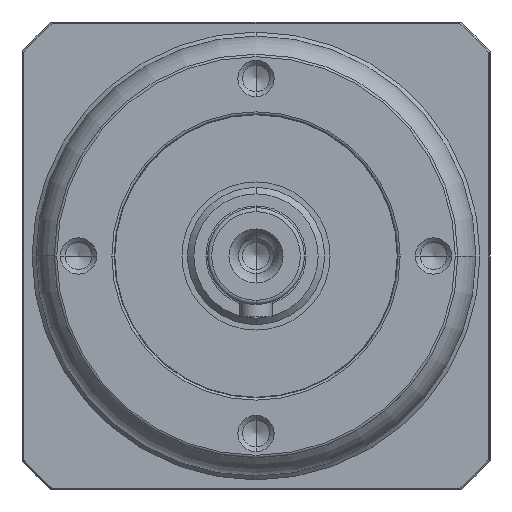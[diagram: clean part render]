
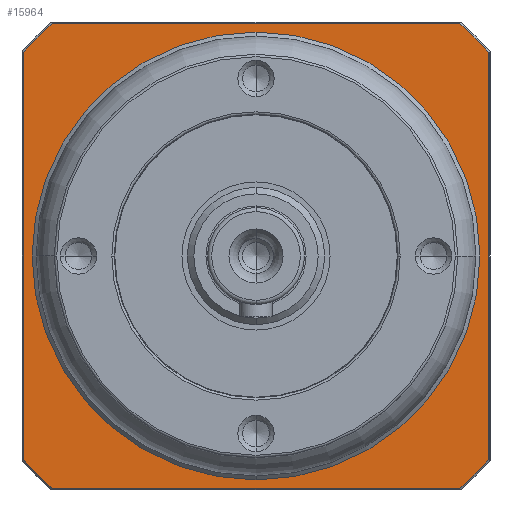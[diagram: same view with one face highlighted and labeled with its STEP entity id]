
A CAD part, left-side view. The second image highlights one B-rep face of the part: STEP entity #15964.
In plain terms, the highlighted planar face has unit normal (-1, 0, 0) as drawn and (0, 0, -1) by its records, which use the part's own axes.
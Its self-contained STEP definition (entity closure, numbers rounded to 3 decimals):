
#14729=CARTESIAN_POINT('',(0.,0.,
2.));
#14730=DIRECTION('',(0.,0.,-1.));
#14731=DIRECTION('',(0.,-1.,0.));
#14732=AXIS2_PLACEMENT_3D('',#14729,#14730,#14731);
#14734=CARTESIAN_POINT('',(0.,0.,
2.));
#14735=DIRECTION('',(0.,0.,-1.));
#14736=DIRECTION('',(0.,1.,0.));
#14737=AXIS2_PLACEMENT_3D('',#14734,#14735,#14736);
#14739=CARTESIAN_POINT('',(0.,0.,2.));
#14740=DIRECTION('',(0.,0.,1.));
#14741=DIRECTION('',(-0.752,-0.659,0.));
#14742=AXIS2_PLACEMENT_3D('',#14739,#14740,#14741);
#14744=DIRECTION('',(1.,0.,0.));
#14745=VECTOR('',#14744,50.496);
#14746=CARTESIAN_POINT('',(-25.248,-28.8,
2.));
#14747=LINE('',#14746,#14745);
#14748=CARTESIAN_POINT('',(0.,0.,2.));
#14749=DIRECTION('',(0.,0.,1.));
#14750=DIRECTION('',(0.659,-0.752,0.));
#14751=AXIS2_PLACEMENT_3D('',#14748,#14749,#14750);
#14753=DIRECTION('',(0.,1.,0.));
#14754=VECTOR('',#14753,50.496);
#14755=CARTESIAN_POINT('',(28.8,-25.248,
2.));
#14756=LINE('',#14755,#14754);
#14757=CARTESIAN_POINT('',(0.,0.,2.));
#14758=DIRECTION('',(0.,0.,1.));
#14759=DIRECTION('',(0.752,0.659,0.));
#14760=AXIS2_PLACEMENT_3D('',#14757,#14758,#14759);
#14762=DIRECTION('',(-1.,0.,0.));
#14763=VECTOR('',#14762,50.496);
#14764=CARTESIAN_POINT('',(25.248,28.8,2.));
#14765=LINE('',#14764,#14763);
#14766=CARTESIAN_POINT('',(0.,0.,2.));
#14767=DIRECTION('',(0.,0.,1.));
#14768=DIRECTION('',(-0.659,0.752,0.));
#14769=AXIS2_PLACEMENT_3D('',#14766,#14767,#14768);
#14771=DIRECTION('',(0.,-1.,0.));
#14772=VECTOR('',#14771,50.496);
#14773=CARTESIAN_POINT('',(-28.8,25.248,
2.));
#14774=LINE('',#14773,#14772);
#15611=CARTESIAN_POINT('',(0.,-27.75,2.));
#15612=CARTESIAN_POINT('',(0.,27.75,2.));
#15613=VERTEX_POINT('',#15611);
#15614=VERTEX_POINT('',#15612);
#15675=CARTESIAN_POINT('',(-28.8,-25.248,2.));
#15676=CARTESIAN_POINT('',(-25.248,-28.8,2.));
#15677=VERTEX_POINT('',#15675);
#15678=VERTEX_POINT('',#15676);
#15683=CARTESIAN_POINT('',(25.248,-28.8,
2.));
#15684=VERTEX_POINT('',#15683);
#15687=CARTESIAN_POINT('',(28.8,-25.248,2.));
#15688=VERTEX_POINT('',#15687);
#15691=CARTESIAN_POINT('',(28.8,25.248,2.));
#15692=VERTEX_POINT('',#15691);
#15695=CARTESIAN_POINT('',(25.248,28.8,2.));
#15696=VERTEX_POINT('',#15695);
#15699=CARTESIAN_POINT('',(-25.248,28.8,
2.));
#15700=VERTEX_POINT('',#15699);
#15705=CARTESIAN_POINT('',(-28.8,25.248,2.));
#15706=VERTEX_POINT('',#15705);
#15936=CARTESIAN_POINT('',(0.,0.,2.));
#15937=DIRECTION('',(0.,0.,1.));
#15938=DIRECTION('',(0.,1.,0.));
#15939=AXIS2_PLACEMENT_3D('',#15936,#15937,#15938);
#15940=PLANE('',#15939);
#15942=ORIENTED_EDGE('',*,*,#15941,.T.);
#15944=ORIENTED_EDGE('',*,*,#15943,.T.);
#15946=ORIENTED_EDGE('',*,*,#15945,.T.);
#15948=ORIENTED_EDGE('',*,*,#15947,.T.);
#15950=ORIENTED_EDGE('',*,*,#15949,.T.);
#15952=ORIENTED_EDGE('',*,*,#15951,.T.);
#15954=ORIENTED_EDGE('',*,*,#15953,.T.);
#15956=ORIENTED_EDGE('',*,*,#15955,.T.);
#15957=EDGE_LOOP('',(#15942,#15944,#15946,#15948,#15950,#15952,#15954,#15956));
#15958=FACE_OUTER_BOUND('',#15957,.F.);
#15960=ORIENTED_EDGE('',*,*,#15959,.T.);
#15961=ORIENTED_EDGE('',*,*,#15926,.T.);
#15962=EDGE_LOOP('',(#15960,#15961));
#15963=FACE_BOUND('',#15962,.F.);
#15964=ADVANCED_FACE('',(#15958,#15963),#15940,.F.);
#14733=CIRCLE('',#14732,27.75);
#14738=CIRCLE('',#14737,27.75);
#14743=CIRCLE('',#14742,38.3);
#14752=CIRCLE('',#14751,38.3);
#14761=CIRCLE('',#14760,38.3);
#14770=CIRCLE('',#14769,38.3);
#15926=EDGE_CURVE('',#15614,#15613,#14738,.T.);
#15941=EDGE_CURVE('',#15677,#15678,#14743,.T.);
#15943=EDGE_CURVE('',#15678,#15684,#14747,.T.);
#15945=EDGE_CURVE('',#15684,#15688,#14752,.T.);
#15947=EDGE_CURVE('',#15688,#15692,#14756,.T.);
#15949=EDGE_CURVE('',#15692,#15696,#14761,.T.);
#15951=EDGE_CURVE('',#15696,#15700,#14765,.T.);
#15953=EDGE_CURVE('',#15700,#15706,#14770,.T.);
#15955=EDGE_CURVE('',#15706,#15677,#14774,.T.);
#15959=EDGE_CURVE('',#15613,#15614,#14733,.T.);
